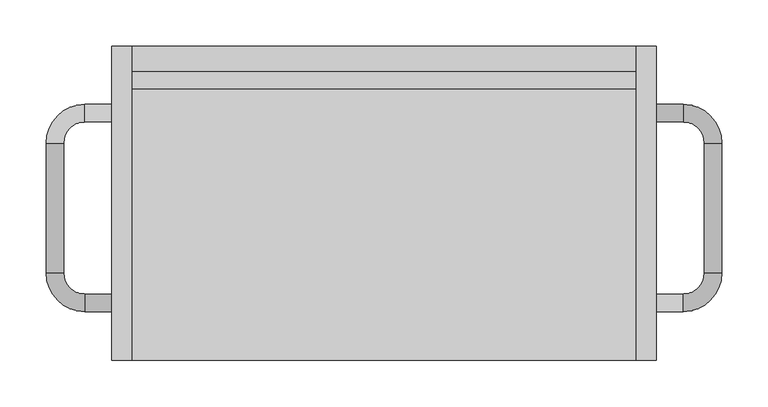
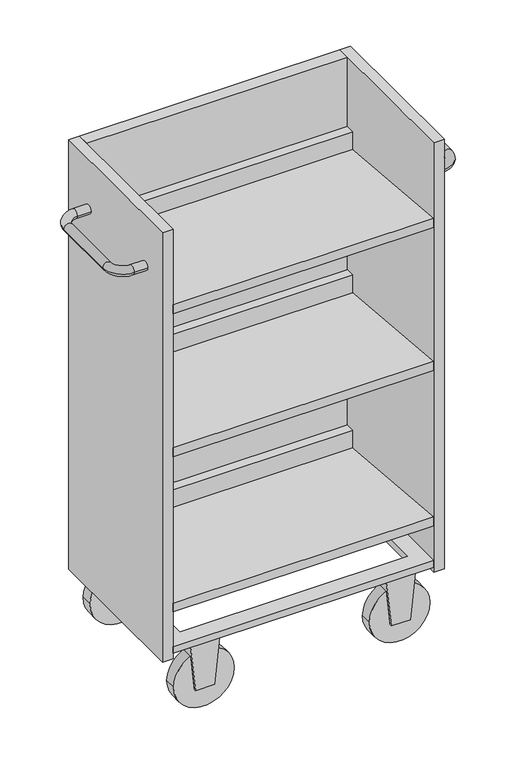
"""IFC4 building model written with IfcOpenShell, lengths in millimetres: furniture geometry, BK Library - Exlibris - Book Trolley Small : BK Library - Exlibris - Book Trolley Small."""

from ifc_helpers import new_model, si_unit, point, frame, frame_2d, origin, place, context, project, spatial, polyline, circle_curve, ellipse_curve, trimmed, segment, composite_curve, outline, extrude, source, transform, mapped, element, save
from ifc_brep_helpers import plane_surface, cylinder_surface, revolved_surface, advanced_brep


def furniture_902c3f7c(model_context):
    return source(origin(), model_context, "Body", "SolidModel", [
        extrude(outline(polyline([(272.9999964, -170.0000004), (272.9999964, 169.9999984), (295.0, 169.9999984), (295.0, -170.0000004), (272.9999964, -170.0000004)])), frame((0.0, 0.0, 131.5246135), z_axis=(0.0, 0.0, 1.0), x_axis=(1.0, 0.0, 0.0)), (0.0, 0.0, 1.0), 950.0000072),
        extrude(outline(polyline([(-272.9999964, 169.9999984), (-272.9999964, -170.0000004), (-295.0, -170.0000004), (-295.0, 169.9999984), (-272.9999964, 169.9999984)])), frame((0.0, 0.0, 131.5246135), z_axis=(0.0, 0.0, 1.0), x_axis=(1.0, 0.0, 0.0)), (0.0, 0.0, 1.0), 950.0000072),
        extrude(outline(polyline([(-170.0000004, 235.2662928), (-170.0000004, 254.3381826), (123.9999896, 228.739766), (123.9999896, 268.0135567), (142.9999896, 268.0135567), (142.9999896, 208.0135567), (-170.0000004, 235.2662928)])), frame((-272.9999964, 0.0, 0.0), z_axis=(1.0, 0.0, 0.0), x_axis=(0.0, 1.0, 0.0)), (0.0, 0.0, 1.0), 545.9999928),
        extrude(outline(polyline([(-170.0000004, 895.2679976), (-170.0000004, 914.3405715), (123.9999896, 888.6189123), (123.9999896, 927.8840534), (142.9999896, 927.8840534), (142.9999896, 867.8840534), (-170.0000004, 895.2679976)])), frame((-272.9999964, 0.0, 0.0), z_axis=(1.0, 0.0, 0.0), x_axis=(0.0, 1.0, 0.0)), (0.0, 0.0, 1.0), 545.9999928),
        extrude(outline(polyline([(-170.0000004, 578.9679728), (-170.0000004, 598.0405467), (123.9999896, 572.3188875), (123.9999896, 611.5840286), (142.9999896, 611.5840286), (142.9999896, 551.5840286), (-170.0000004, 578.9679728)])), frame((-272.9999964, 0.0, 0.0), z_axis=(1.0, 0.0, 0.0), x_axis=(0.0, 1.0, 0.0)), (0.0, 0.0, 1.0), 545.9999928),
        extrude(outline(polyline([(-272.9999964, -170.0000004), (-272.9999964, 169.9999984), (272.9999964, 169.9999984), (272.9999964, -170.0000004), (-272.9999964, -170.0000004)]), holes=[polyline([(238.0000104, 135.0), (-238.0000006, 135.0), (-238.0000006, -135.000002), (238.0000104, -135.000002), (238.0000104, 135.0)])]), frame((0.0, 0.0, 143.5246151), z_axis=(0.0, 0.0, 1.0), x_axis=(1.0, 0.0, 0.0)), (0.0, 0.0, 1.0), 14.9999928),
        advanced_brep(
        [(295.0, 88.0399554, 972.0246135), (295.0, 107.0399554, 972.0246135), (323.8160058, 107.0399554, 972.0246135), (323.8160058, 88.0399554, 972.0246135), (346.8160058, 65.0399554, 972.0246135), (365.8160058, 65.0399554, 972.0246135), (365.8160058, -75.5438715, 972.0246135), (346.8160058, -75.5438715, 972.0246135), (323.8622363, -98.4976409, 972.0246135), (323.8622363, -117.4976409, 972.0246135), (295.0, -98.4976409, 972.0246135), (295.0, -117.4976409, 972.0246135)],
        [
            (0, 1, circle_curve(frame((295.0, 97.5399554, 972.0246135), z_axis=(-1.0, 0.0, 0.0), x_axis=(0.0, 1.0, 0.0)), 9.5)),
            (1, 0, circle_curve(frame((295.0, 97.5399554, 972.0246135), z_axis=(-1.0, 0.0, 0.0), x_axis=(0.0, 1.0, 0.0)), 9.5)),
            (1, 2),
            (2, 3, circle_curve(frame((323.8160058, 97.5399554, 972.0246135), z_axis=(-1.0, 0.0, 0.0), x_axis=(0.0, 1.0, 0.0)), 9.5)),
            (3, 0),
            (3, 2, circle_curve(frame((323.8160058, 97.5399554, 972.0246135), z_axis=(-1.0, 0.0, 0.0), x_axis=(0.0, 1.0, 0.0)), 9.5)),
            (4, 3, circle_curve(frame((323.8160058, 65.0399554, 972.0246135), z_axis=(0.0, 0.0, 1.0), x_axis=(0.0, 1.0, 0.0)), 23.0)),
            (2, 5, circle_curve(frame((323.8160058, 65.0399554, 972.0246135), z_axis=(0.0, 0.0, -1.0), x_axis=(0.0, 1.0, 0.0)), 42.0)),
            (5, 4, circle_curve(frame((356.3160058, 65.0399554, 972.0246135), z_axis=(0.0, 1.0, 0.0), x_axis=(1.0, 0.0, 0.0)), 9.5)),
            (4, 5, circle_curve(frame((356.3160058, 65.0399554, 972.0246135), z_axis=(0.0, 1.0, 0.0), x_axis=(1.0, 0.0, 0.0)), 9.5)),
            (5, 6),
            (6, 7, circle_curve(frame((356.3160058, -75.5438715, 972.0246135), z_axis=(0.0, 1.0, 0.0), x_axis=(1.0, 0.0, 0.0)), 9.5)),
            (7, 4),
            (7, 6, circle_curve(frame((356.3160058, -75.5438715, 972.0246135), z_axis=(0.0, 1.0, 0.0), x_axis=(1.0, 0.0, 0.0)), 9.5)),
            (8, 7, circle_curve(frame((323.8622363, -75.5438715, 972.0246135), z_axis=(0.0, 0.0, 1.0), x_axis=(1.0, 0.0, 0.0)), 22.9537695)),
            (6, 9, circle_curve(frame((323.8622363, -75.5438715, 972.0246135), z_axis=(0.0, 0.0, -1.0), x_axis=(1.0, 0.0, 0.0)), 41.9537695)),
            (9, 8, circle_curve(frame((323.8622363, -107.9976409, 972.0246135), z_axis=(1.0, 0.0, 0.0), x_axis=(0.0, -1.0, 0.0)), 9.5)),
            (8, 9, circle_curve(frame((323.8622363, -107.9976409, 972.0246135), z_axis=(1.0, 0.0, 0.0), x_axis=(0.0, -1.0, 0.0)), 9.5)),
            (10, 11, circle_curve(frame((295.0, -107.9976409, 972.0246135), z_axis=(-1.0, 0.0, 0.0), x_axis=(0.0, -1.0, 0.0)), 9.5)),
            (11, 10, circle_curve(frame((295.0, -107.9976409, 972.0246135), z_axis=(-1.0, 0.0, 0.0), x_axis=(0.0, -1.0, 0.0)), 9.5)),
            (9, 11),
            (10, 8),
        ],
        [
            plane_surface(frame((295.0, 88.0399554, 45.0237324), z_axis=(-1.0, 0.0, 0.0), x_axis=(0.0, 0.0, 1.0))),
            cylinder_surface(frame((295.0, 97.5399554, 972.0246135), z_axis=(-1.0, 0.0, 0.0), x_axis=(0.0, 1.0, 0.0)), 9.5),
            revolved_surface(trimmed(ellipse_curve(frame((323.8160058, 97.5399554, 972.0246135), z_axis=(-1.0, 0.0, 0.0), x_axis=(0.0, 1.0, 0.0)), 9.5, 9.5), [point((323.8160058, 107.0399554, 972.0246135))], [point((323.8160058, 88.0399554, 972.0246135))], True, "CARTESIAN"), (323.8160058, 65.0399554, 45.0237324), (0.0, 0.0, -1.0)),
            revolved_surface(trimmed(ellipse_curve(frame((323.8160058, 97.5399554, 972.0246135), z_axis=(-1.0, 0.0, 0.0), x_axis=(0.0, 1.0, 0.0)), 9.5, 9.5), [point((323.8160058, 88.0399554, 972.0246135))], [point((323.8160058, 107.0399554, 972.0246135))], True, "CARTESIAN"), (323.8160058, 65.0399554, 45.0237324), (0.0, 0.0, -1.0)),
            cylinder_surface(frame((356.3160058, 65.0399554, 972.0246135), z_axis=(0.0, 1.0, 0.0), x_axis=(1.0, 0.0, 0.0)), 9.5),
            revolved_surface(trimmed(ellipse_curve(frame((356.3160058, -75.5438715, 972.0246135), z_axis=(0.0, 1.0, 0.0), x_axis=(1.0, 0.0, 0.0)), 9.5, 9.5), [point((365.8160058, -75.5438715, 972.0246135))], [point((346.8160058, -75.5438715, 972.0246135))], True, "CARTESIAN"), (323.8622363, -75.5438715, 45.0237324), (0.0, 0.0, -1.0)),
            revolved_surface(trimmed(ellipse_curve(frame((356.3160058, -75.5438715, 972.0246135), z_axis=(0.0, 1.0, 0.0), x_axis=(1.0, 0.0, 0.0)), 9.5, 9.5), [point((346.8160058, -75.5438715, 972.0246135))], [point((365.8160058, -75.5438715, 972.0246135))], True, "CARTESIAN"), (323.8622363, -75.5438715, 45.0237324), (0.0, 0.0, -1.0)),
            plane_surface(frame((295.0, -98.4976409, 45.0237324), z_axis=(-1.0, 0.0, 0.0), x_axis=(0.0, 0.0, 1.0))),
            cylinder_surface(frame((323.8622363, -107.9976409, 972.0246135), z_axis=(1.0, 0.0, 0.0), x_axis=(0.0, -1.0, 0.0)), 9.5),
        ],
        [
            (0, [[1, 2]]),
            (1, [[-2, 3, 4, 5]]),
            (1, [[-1, -5, 6, -3]]),
            (2, [[7, -4, 8, 9]]),
            (3, [[-8, -6, -7, 10]]),
            (4, [[-9, 11, 12, 13]]),
            (4, [[-10, -13, 14, -11]]),
            (5, [[15, -12, 16, 17]]),
            (6, [[-16, -14, -15, 18]]),
            (7, [[19, 20]]),
            (8, [[-17, 21, -19, 22]]),
            (8, [[-18, -22, -20, -21]]),
        ],
    ),
        advanced_brep(
        [(-295.0, 107.0399554, 972.0246135), (-295.0, 88.0399554, 972.0246135), (-323.8160058, 107.0399554, 972.0246135), (-323.8160058, 88.0399554, 972.0246135), (-346.8160058, 65.0399554, 972.0246135), (-365.8160058, 65.0399554, 972.0246135), (-365.8160058, -75.5438715, 972.0246135), (-346.8160058, -75.5438715, 972.0246135), (-323.8622363, -98.4976409, 972.0246135), (-323.8622363, -117.4976409, 972.0246135), (-295.0, -117.4976409, 972.0246135), (-295.0, -98.4976409, 972.0246135)],
        [
            (0, 1, circle_curve(frame((-295.0, 97.5399554, 972.0246135), z_axis=(1.0, 0.0, 0.0), x_axis=(0.0, -1.0, 0.0)), 9.5)),
            (1, 0, circle_curve(frame((-295.0, 97.5399554, 972.0246135), z_axis=(1.0, 0.0, 0.0), x_axis=(0.0, -1.0, 0.0)), 9.5)),
            (0, 2),
            (2, 3, circle_curve(frame((-323.8160058, 97.5399554, 972.0246135), z_axis=(1.0, 0.0, 0.0), x_axis=(0.0, -1.0, 0.0)), 9.5)),
            (3, 1),
            (3, 2, circle_curve(frame((-323.8160058, 97.5399554, 972.0246135), z_axis=(1.0, 0.0, 0.0), x_axis=(0.0, -1.0, 0.0)), 9.5)),
            (4, 3, circle_curve(frame((-323.8160058, 65.0399554, 972.0246135), z_axis=(0.0, 0.0, -1.0), x_axis=(0.0, 1.0, 0.0)), 23.0)),
            (2, 5, circle_curve(frame((-323.8160058, 65.0399554, 972.0246135), z_axis=(0.0, 0.0, 1.0), x_axis=(0.0, 1.0, 0.0)), 42.0)),
            (5, 4, circle_curve(frame((-356.3160058, 65.0399554, 972.0246135), z_axis=(0.0, 1.0, 0.0), x_axis=(1.0, 0.0, 0.0)), 9.5)),
            (4, 5, circle_curve(frame((-356.3160058, 65.0399554, 972.0246135), z_axis=(0.0, 1.0, 0.0), x_axis=(1.0, 0.0, 0.0)), 9.5)),
            (5, 6),
            (6, 7, circle_curve(frame((-356.3160058, -75.5438715, 972.0246135), z_axis=(0.0, 1.0, 0.0), x_axis=(1.0, 0.0, 0.0)), 9.5)),
            (7, 4),
            (7, 6, circle_curve(frame((-356.3160058, -75.5438715, 972.0246135), z_axis=(0.0, 1.0, 0.0), x_axis=(1.0, 0.0, 0.0)), 9.5)),
            (8, 7, circle_curve(frame((-323.8622363, -75.5438715, 972.0246135), z_axis=(0.0, 0.0, -1.0), x_axis=(-1.0, 0.0, 0.0)), 22.9537695)),
            (6, 9, circle_curve(frame((-323.8622363, -75.5438715, 972.0246135), z_axis=(0.0, 0.0, 1.0), x_axis=(-1.0, 0.0, 0.0)), 41.9537695)),
            (9, 8, circle_curve(frame((-323.8622363, -107.9976409, 972.0246135), z_axis=(-1.0, 0.0, 0.0), x_axis=(0.0, 1.0, 0.0)), 9.5)),
            (8, 9, circle_curve(frame((-323.8622363, -107.9976409, 972.0246135), z_axis=(-1.0, 0.0, 0.0), x_axis=(0.0, 1.0, 0.0)), 9.5)),
            (10, 11, circle_curve(frame((-295.0, -107.9976409, 972.0246135), z_axis=(1.0, 0.0, 0.0), x_axis=(0.0, 1.0, 0.0)), 9.5)),
            (11, 10, circle_curve(frame((-295.0, -107.9976409, 972.0246135), z_axis=(1.0, 0.0, 0.0), x_axis=(0.0, 1.0, 0.0)), 9.5)),
            (9, 10),
            (11, 8),
        ],
        [
            plane_surface(frame((-295.0, 88.0399554, 45.0237324), z_axis=(1.0, 0.0, 0.0), x_axis=(0.0, 0.0, 1.0))),
            cylinder_surface(frame((-295.0, 97.5399554, 972.0246135), z_axis=(1.0, 0.0, 0.0), x_axis=(0.0, -1.0, 0.0)), 9.5),
            revolved_surface(trimmed(ellipse_curve(frame((-323.8160058, 97.5399554, 972.0246135), z_axis=(1.0, 0.0, 0.0), x_axis=(0.0, -1.0, 0.0)), 9.5, 9.5), [point((-323.8160058, 107.0399554, 972.0246135))], [point((-323.8160058, 88.0399554, 972.0246135))], True, "CARTESIAN"), (-323.8160058, 65.0399554, 45.0237324), (0.0, 0.0, 1.0)),
            revolved_surface(trimmed(ellipse_curve(frame((-323.8160058, 97.5399554, 972.0246135), z_axis=(1.0, 0.0, 0.0), x_axis=(0.0, -1.0, 0.0)), 9.5, 9.5), [point((-323.8160058, 88.0399554, 972.0246135))], [point((-323.8160058, 107.0399554, 972.0246135))], True, "CARTESIAN"), (-323.8160058, 65.0399554, 45.0237324), (0.0, 0.0, 1.0)),
            cylinder_surface(frame((-356.3160058, 65.0399554, 972.0246135), z_axis=(0.0, 1.0, 0.0), x_axis=(1.0, 0.0, 0.0)), 9.5),
            revolved_surface(trimmed(ellipse_curve(frame((-356.3160058, -75.5438715, 972.0246135), z_axis=(0.0, 1.0, 0.0), x_axis=(1.0, 0.0, 0.0)), 9.5, 9.5), [point((-365.8160058, -75.5438715, 972.0246135))], [point((-346.8160058, -75.5438715, 972.0246135))], True, "CARTESIAN"), (-323.8622363, -75.5438715, 45.0237324), (0.0, 0.0, 1.0)),
            revolved_surface(trimmed(ellipse_curve(frame((-356.3160058, -75.5438715, 972.0246135), z_axis=(0.0, 1.0, 0.0), x_axis=(1.0, 0.0, 0.0)), 9.5, 9.5), [point((-346.8160058, -75.5438715, 972.0246135))], [point((-365.8160058, -75.5438715, 972.0246135))], True, "CARTESIAN"), (-323.8622363, -75.5438715, 45.0237324), (0.0, 0.0, 1.0)),
            plane_surface(frame((-295.0, -98.4976409, 45.0237324), z_axis=(1.0, 0.0, 0.0), x_axis=(0.0, 0.0, 1.0))),
            cylinder_surface(frame((-323.8622363, -107.9976409, 972.0246135), z_axis=(-1.0, 0.0, 0.0), x_axis=(0.0, 1.0, 0.0)), 9.5),
        ],
        [
            (0, [[1, 2]]),
            (1, [[-1, 3, 4, 5]]),
            (1, [[-2, -5, 6, -3]]),
            (2, [[7, -4, 8, 9]]),
            (3, [[-8, -6, -7, 10]]),
            (4, [[-9, 11, 12, 13]]),
            (4, [[-10, -13, 14, -11]]),
            (5, [[15, -12, 16, 17]]),
            (6, [[-16, -14, -15, 18]]),
            (7, [[19, 20]]),
            (8, [[-17, 21, -20, 22]]),
            (8, [[-18, -22, -19, -21]]),
        ],
    ),
        extrude(outline(polyline([(272.9999964, 169.9999984), (272.9999964, 142.9999896), (-272.9999964, 142.9999896), (-272.9999964, 169.9999984), (272.9999964, 169.9999984)])), frame((0.0, 0.0, 208.0135567), z_axis=(0.0, 0.0, 1.0), x_axis=(1.0, 0.0, 0.0)), (0.0, 0.0, 1.0), 873.5110532),
        extrude(outline(polyline([(143.5246151, 174.7814982), (43.1604333, 184.8179132), (43.1604333, 224.9635823), (143.5246151, 234.9999973), (143.5246151, 174.7814982)])), frame((0.0, -168.1870887, 0.0), z_axis=(0.0, 1.0, 0.0), x_axis=(0.0, 0.0, 1.0)), (0.0, 0.0, 1.0), 33.1870868),
        extrude(outline(composite_curve([segment(trimmed(circle_curve(frame_2d((63.2332701, 204.8907432)), 63.2332701), [point((63.2332701, 141.6574731))], [point((63.2332701, 268.1240133))], False, "CARTESIAN"), True, "CONTINUOUS"), segment(trimmed(circle_curve(frame_2d((63.2332701, 204.8907432)), 63.2332701), [point((63.2332701, 268.1240133))], [point((63.2332701, 141.6574731))], False, "CARTESIAN"), True, "CONTINUOUS")], self_intersect=False)), frame((0.0, -164.0387046, 0.0), z_axis=(0.0, 1.0, 0.0), x_axis=(0.0, 0.0, 1.0)), (0.0, 0.0, 1.0), 24.8903185),
        extrude(outline(polyline([(143.5246151, 174.7814982), (43.1604333, 184.8179132), (43.1604333, 224.9635823), (143.5246151, 234.9999973), (143.5246151, 174.7814982)])), frame((0.0, 135.000002, 0.0), z_axis=(0.0, 1.0, 0.0), x_axis=(0.0, 0.0, 1.0)), (0.0, 0.0, 1.0), 33.1870868),
        extrude(outline(composite_curve([segment(trimmed(circle_curve(frame_2d((63.2332701, 204.8907432)), 63.2332701), [point((63.2332701, 141.6574731))], [point((63.2332701, 268.1240133))], False, "CARTESIAN"), True, "CONTINUOUS"), segment(trimmed(circle_curve(frame_2d((63.2332701, 204.8907432)), 63.2332701), [point((63.2332701, 268.1240133))], [point((63.2332701, 141.6574731))], False, "CARTESIAN"), True, "CONTINUOUS")], self_intersect=False)), frame((0.0, 139.1483861, 0.0), z_axis=(0.0, 1.0, 0.0), x_axis=(0.0, 0.0, 1.0)), (0.0, 0.0, 1.0), 24.8903185),
        extrude(outline(polyline([(143.5246151, -174.7814982), (143.5246151, -234.9999973), (43.1604333, -224.9635823), (43.1604333, -184.8179132), (143.5246151, -174.7814982)])), frame((0.0, 135.000002, 0.0), z_axis=(0.0, 1.0, 0.0), x_axis=(0.0, 0.0, 1.0)), (0.0, 0.0, 1.0), 33.1870868),
        extrude(outline(composite_curve([segment(trimmed(circle_curve(frame_2d((63.2332701, -204.8907432)), 63.2332701), [point((63.2332701, -141.6574731))], [point((63.2332701, -268.1240133))], False, "CARTESIAN"), True, "CONTINUOUS"), segment(trimmed(circle_curve(frame_2d((63.2332701, -204.8907432)), 63.2332701), [point((63.2332701, -268.1240133))], [point((63.2332701, -141.6574731))], False, "CARTESIAN"), True, "CONTINUOUS")], self_intersect=False)), frame((0.0, 139.1483861, 0.0), z_axis=(0.0, 1.0, 0.0), x_axis=(0.0, 0.0, 1.0)), (0.0, 0.0, 1.0), 24.8903185),
        extrude(outline(polyline([(143.5246151, -174.7814982), (143.5246151, -234.9999973), (43.1604333, -224.9635823), (43.1604333, -184.8179132), (143.5246151, -174.7814982)])), frame((0.0, -168.1870887, 0.0), z_axis=(0.0, 1.0, 0.0), x_axis=(0.0, 0.0, 1.0)), (0.0, 0.0, 1.0), 33.1870868),
        extrude(outline(composite_curve([segment(trimmed(circle_curve(frame_2d((63.2332701, -204.8907432)), 63.2332701), [point((63.2332701, -141.6574731))], [point((63.2332701, -268.1240133))], False, "CARTESIAN"), True, "CONTINUOUS"), segment(trimmed(circle_curve(frame_2d((63.2332701, -204.8907432)), 63.2332701), [point((63.2332701, -268.1240133))], [point((63.2332701, -141.6574731))], False, "CARTESIAN"), True, "CONTINUOUS")], self_intersect=False)), frame((0.0, -164.0387046, 0.0), z_axis=(0.0, 1.0, 0.0), x_axis=(0.0, 0.0, 1.0)), (0.0, 0.0, 1.0), 24.8903185),
    ])


if __name__ == "__main__":
    model = new_model("IFC4")
    model_context = context("Model", 3, world=origin())
    ifc_project = project(units=[si_unit("LENGTHUNIT", "METRE", prefix="MILLI")], contexts=[model_context])
    site = spatial("IfcSite", under=ifc_project)
    building = spatial("IfcBuilding", under=site)
    placement = place(None, origin())
    furniture_shape = furniture_902c3f7c(model_context)
    element("IfcFurniture", 1, ObjectType="BK Library - Exlibris - Book Trolley Small : BK Library - Exlibris - Book Trolley Small", at=placement, inside=building, context=model_context, shape_type="MappedRepresentation", body=[
        mapped(furniture_shape, transform((0.0, 0.0, 0.0), x_axis=(1.0, 0.0, 0.0), y_axis=(0.0, 1.0, 0.0), z_axis=(0.0, 0.0, 1.0))),
    ])
    save(model, "model.ifc")
